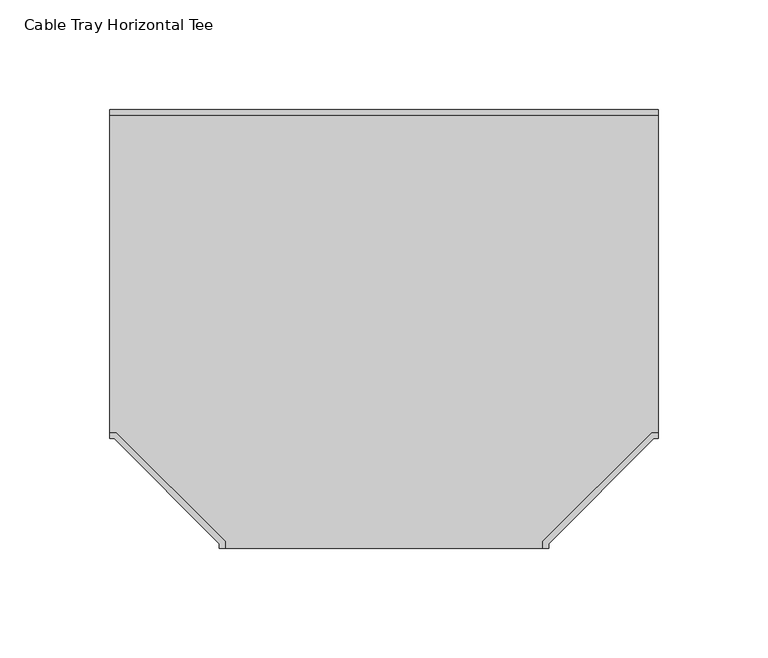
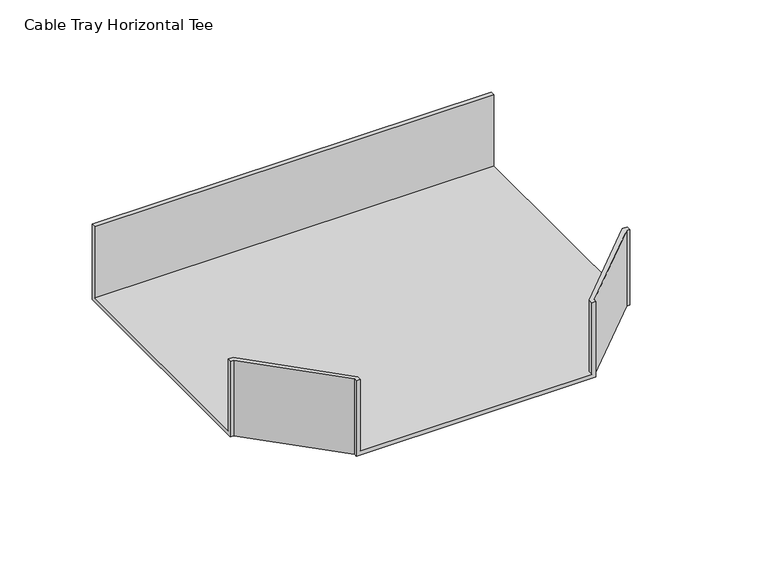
"""IFC4 building model written with IfcOpenShell, lengths in millimetres: cable carrier fitting geometry, Cable Tray Horizontal Tee : ELEC_ELV_CT_N2402."""

from ifc_helpers import new_model, si_unit, origin, place, context, project, spatial, faceted_brep, source, transform, mapped, element, save


def cable_tray_horizontal_tee_4e20ecb0(model_context):
    return source(origin(), model_context, "Body", "Brep", [
        faceted_brep([(-72.46, -125.0, -22.46), (72.46, -125.0, -22.46), (72.46, -121.9478976, -22.46), (121.9478976, -72.46, -22.46), (125.0, -72.46, -22.46), (125.0, 72.46, -22.46), (-125.0, 72.46, -22.46), (-125.0, -72.46, -22.46), (-121.9478976, -72.46, -22.46), (-72.46, -121.9478976, -22.46), (-75.0, -123.0, -25.0), (-123.0, -75.0, -25.0), (-125.0, -75.0, -25.0), (-125.0, 75.0, -25.0), (125.0, 75.0, -25.0), (125.0, -75.0, -25.0), (123.0, -75.0, -25.0), (75.0, -123.0, -25.0), (75.0, -125.0, -25.0), (-75.0, -125.0, -25.0), (-75.0, -125.0, 25.0), (-75.0, -123.0, 25.0), (75.0, -125.0, 25.0), (72.46, -125.0, 25.0), (-72.46, -125.0, 25.0), (75.0, -123.0, 25.0), (123.0, -75.0, 25.0), (125.0, -75.0, 25.0), (125.0, 75.0, 25.0), (125.0, 72.46, 25.0), (125.0, -72.46, 25.0), (-125.0, 75.0, 25.0), (-125.0, -75.0, 25.0), (-125.0, -72.46, 25.0), (-125.0, 72.46, 25.0), (-123.0, -75.0, 25.0), (-72.46, -121.9478976, 25.0), (-121.9478976, -72.46, 25.0), (72.46, -121.9478976, 25.0), (121.9478976, -72.46, 25.0)], [[[0, 1, 2, 3, 4, 5, 6, 7, 8, 9]], [[10, 11, 12, 13, 14, 15, 16, 17, 18, 19]], [[10, 19, 20, 21]], [[20, 19, 18, 22, 23, 1, 0, 24]], [[22, 18, 17, 25]], [[25, 17, 16, 26]], [[26, 16, 15, 27]], [[27, 15, 14, 28, 29, 5, 4, 30]], [[28, 14, 13, 31]], [[31, 13, 12, 32, 33, 7, 6, 34]], [[32, 12, 11, 35]], [[35, 11, 10, 21]], [[28, 31, 34, 29]], [[36, 37, 33, 32, 35, 21, 20, 24]], [[38, 23, 22, 25, 26, 27, 30, 39]], [[37, 36, 9, 8]], [[33, 37, 8, 7]], [[36, 24, 0, 9]], [[39, 30, 4, 3]], [[38, 39, 3, 2]], [[23, 38, 2, 1]], [[29, 34, 6, 5]]]),
    ])


if __name__ == "__main__":
    model = new_model("IFC4")
    model_context = context("Model", 3, world=origin())
    ifc_project = project(units=[si_unit("LENGTHUNIT", "METRE", prefix="MILLI")], contexts=[model_context])
    site = spatial("IfcSite", under=ifc_project)
    building = spatial("IfcBuilding", under=site)
    placement = place(None, origin())
    cable_tray_horizontal_tee_shape = cable_tray_horizontal_tee_4e20ecb0(model_context)
    element("IfcCableCarrierFitting", 1, ObjectType="Cable Tray Horizontal Tee : ELEC_ELV_CT_N2402", at=placement, inside=building, context=model_context, shape_type="MappedRepresentation", body=[
        mapped(cable_tray_horizontal_tee_shape, transform((0.0, 0.0, 0.0), x_axis=(1.0, 0.0, 0.0), y_axis=(0.0, 1.0, 0.0), z_axis=(0.0, 0.0, 1.0))),
    ])
    save(model, "model.ifc")
